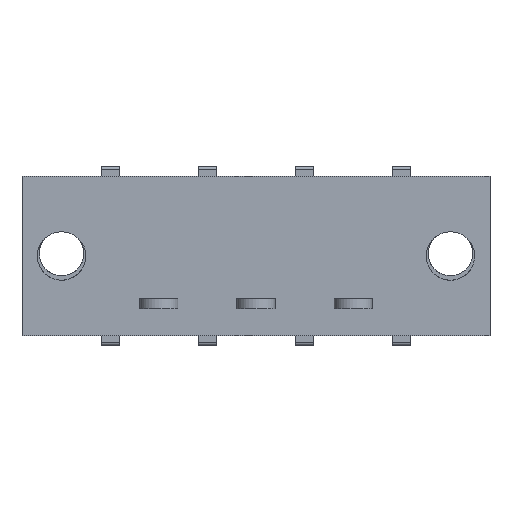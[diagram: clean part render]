
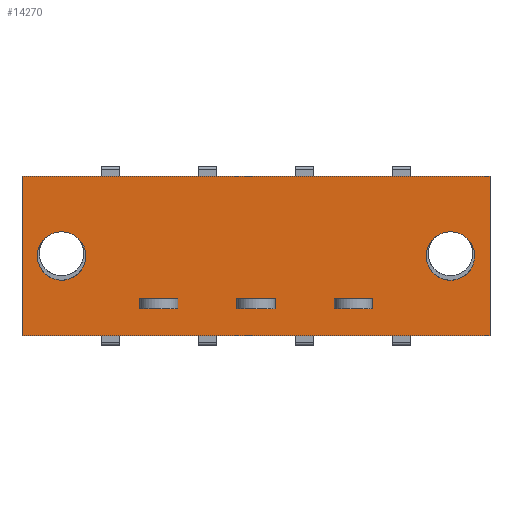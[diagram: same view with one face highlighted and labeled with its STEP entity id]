
A CAD part, front view. The second image highlights one B-rep face of the part: STEP entity #14270.
In plain terms, the highlighted planar face has unit normal (0, -1, 0).
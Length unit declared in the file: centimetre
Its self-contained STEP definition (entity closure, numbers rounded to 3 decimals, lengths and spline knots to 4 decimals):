
#752=PLANE('',#23408);
#1497=VECTOR('',#15420,1.);
#1705=VECTOR('',#15875,1.);
#1709=VECTOR('',#15880,1.);
#1712=VECTOR('',#15903,1.);
#1715=VECTOR('',#15907,1.);
#1764=VECTOR('',#16002,1.);
#1773=VECTOR('',#16014,1.);
#1774=VECTOR('',#16015,1.);
#1775=VECTOR('',#16016,1.);
#1776=VECTOR('',#16017,1.);
#1777=VECTOR('',#16018,1.);
#1778=VECTOR('',#16019,1.);
#1779=VECTOR('',#16020,1.);
#1780=VECTOR('',#16021,1.);
#1781=VECTOR('',#16022,1.);
#1782=VECTOR('',#16023,1.);
#3077=LINE('',#19181,#1497);
#3285=LINE('',#19869,#1705);
#3289=LINE('',#19878,#1709);
#3292=LINE('',#19899,#1712);
#3295=LINE('',#19904,#1715);
#3344=LINE('',#20025,#1764);
#3353=LINE('',#20044,#1773);
#3354=LINE('',#20047,#1774);
#3355=LINE('',#20049,#1775);
#3356=LINE('',#20051,#1776);
#3357=LINE('',#20052,#1777);
#3358=LINE('',#20055,#1778);
#3359=LINE('',#20057,#1779);
#3360=LINE('',#20059,#1780);
#3361=LINE('',#20060,#1781);
#3362=LINE('',#20062,#1782);
#4590=VERTEX_POINT('',#19180);
#4591=VERTEX_POINT('',#19182);
#4592=VERTEX_POINT('',#19186);
#4797=VERTEX_POINT('',#19870);
#4798=VERTEX_POINT('',#19871);
#4801=VERTEX_POINT('',#19879);
#4808=VERTEX_POINT('',#19900);
#4851=VERTEX_POINT('',#20026);
#4858=VERTEX_POINT('',#20043);
#4859=VERTEX_POINT('',#20045);
#4860=VERTEX_POINT('',#20046);
#4861=VERTEX_POINT('',#20048);
#4862=VERTEX_POINT('',#20050);
#4863=VERTEX_POINT('',#20053);
#4864=VERTEX_POINT('',#20054);
#4865=VERTEX_POINT('',#20056);
#4866=VERTEX_POINT('',#20058);
#4867=VERTEX_POINT('',#20061);
#5634=CIRCLE('',#23204,0.19);
#5710=CIRCLE('',#23409,0.19);
#6386=EDGE_CURVE('',#4591,#4590,#3077,.T.);
#6388=EDGE_CURVE('',#4592,#4592,#5634,.T.);
#6689=EDGE_CURVE('',#4797,#4798,#3285,.T.);
#6693=EDGE_CURVE('',#4801,#4797,#3289,.T.);
#6702=EDGE_CURVE('',#4798,#4808,#3292,.T.);
#6705=EDGE_CURVE('',#4808,#4801,#3295,.T.);
#6765=EDGE_CURVE('',#4851,#4590,#3344,.T.);
#6774=EDGE_CURVE('',#4858,#4858,#5710,.T.);
#6775=EDGE_CURVE('',#4859,#4860,#3353,.T.);
#6776=EDGE_CURVE('',#4860,#4861,#3354,.T.);
#6777=EDGE_CURVE('',#4861,#4862,#3355,.T.);
#6778=EDGE_CURVE('',#4862,#4859,#3356,.T.);
#6779=EDGE_CURVE('',#4863,#4864,#3357,.T.);
#6780=EDGE_CURVE('',#4864,#4865,#3358,.T.);
#6781=EDGE_CURVE('',#4865,#4866,#3359,.T.);
#6782=EDGE_CURVE('',#4866,#4863,#3360,.T.);
#6783=EDGE_CURVE('',#4867,#4591,#3361,.T.);
#6784=EDGE_CURVE('',#4867,#4851,#3362,.T.);
#9736=ORIENTED_EDGE('',*,*,#6388,.T.);
#9737=ORIENTED_EDGE('',*,*,#6774,.T.);
#9738=ORIENTED_EDGE('',*,*,#6693,.F.);
#9739=ORIENTED_EDGE('',*,*,#6705,.F.);
#9740=ORIENTED_EDGE('',*,*,#6702,.F.);
#9741=ORIENTED_EDGE('',*,*,#6689,.F.);
#9742=ORIENTED_EDGE('',*,*,#6775,.T.);
#9743=ORIENTED_EDGE('',*,*,#6776,.T.);
#9744=ORIENTED_EDGE('',*,*,#6777,.T.);
#9745=ORIENTED_EDGE('',*,*,#6778,.T.);
#9746=ORIENTED_EDGE('',*,*,#6779,.T.);
#9747=ORIENTED_EDGE('',*,*,#6780,.T.);
#9748=ORIENTED_EDGE('',*,*,#6781,.T.);
#9749=ORIENTED_EDGE('',*,*,#6782,.T.);
#9750=ORIENTED_EDGE('',*,*,#6783,.T.);
#9751=ORIENTED_EDGE('',*,*,#6386,.T.);
#9752=ORIENTED_EDGE('',*,*,#6765,.F.);
#9753=ORIENTED_EDGE('',*,*,#6784,.F.);
#12549=EDGE_LOOP('',(#9736));
#12550=EDGE_LOOP('',(#9737));
#12551=EDGE_LOOP('',(#9738,#9739,#9740,#9741));
#12552=EDGE_LOOP('',(#9742,#9743,#9744,#9745));
#12553=EDGE_LOOP('',(#9746,#9747,#9748,#9749));
#12554=EDGE_LOOP('',(#9750,#9751,#9752,#9753));
#13429=FACE_BOUND('',#12549,.T.);
#13430=FACE_BOUND('',#12550,.T.);
#13431=FACE_BOUND('',#12551,.T.);
#13432=FACE_BOUND('',#12552,.T.);
#13433=FACE_BOUND('',#12553,.T.);
#13434=FACE_BOUND('',#12554,.T.);
#14270=ADVANCED_FACE('',(#13429,#13430,#13431,#13432,#13433,#13434),#752,
 .T.);
#15420=DIRECTION('',(0.,0.,1.));
#15424=DIRECTION('',(0.,1.,0.));
#15425=DIRECTION('',(0.19,0.,0.));
#15875=DIRECTION('',(0.,0.,-1.));
#15880=DIRECTION('',(-1.,0.,0.));
#15903=DIRECTION('',(1.,0.,0.));
#15907=DIRECTION('',(0.,0.,1.));
#16002=DIRECTION('',(1.,0.,0.));
#16011=DIRECTION('',(0.,-1.,0.));
#16012=DIRECTION('',(0.,1.,0.));
#16013=DIRECTION('',(0.19,0.,0.));
#16014=DIRECTION('',(1.,0.,0.));
#16015=DIRECTION('',(0.,0.,-1.));
#16016=DIRECTION('',(-1.,0.,0.));
#16017=DIRECTION('',(0.,0.,1.));
#16018=DIRECTION('',(1.,0.,0.));
#16019=DIRECTION('',(0.,0.,-1.));
#16020=DIRECTION('',(-1.,0.,0.));
#16021=DIRECTION('',(0.,0.,1.));
#16022=DIRECTION('',(1.,0.,0.));
#16023=DIRECTION('',(0.,0.,1.));
#19180=CARTESIAN_POINT('',(2.286,0.,0.625));
#19181=CARTESIAN_POINT('',(2.286,0.,-0.625));
#19182=CARTESIAN_POINT('',(2.286,0.,-0.625));
#19185=CARTESIAN_POINT('',(1.976,0.,0.));
#19186=CARTESIAN_POINT('',(1.786,0.,0.));
#19869=CARTESIAN_POINT('',(-0.46,0.,-0.1875));
#19870=CARTESIAN_POINT('',(-0.46,0.,-0.335));
#19871=CARTESIAN_POINT('',(-0.46,0.,-0.415));
#19878=CARTESIAN_POINT('',(-0.465,0.,-0.335));
#19879=CARTESIAN_POINT('',(-0.16,0.,-0.335));
#19899=CARTESIAN_POINT('',(-0.465,0.,-0.415));
#19900=CARTESIAN_POINT('',(-0.16,0.,-0.415));
#19904=CARTESIAN_POINT('',(-0.16,0.,-0.1875));
#20025=CARTESIAN_POINT('',(-1.382,0.,0.625));
#20026=CARTESIAN_POINT('',(-1.382,0.,0.625));
#20041=CARTESIAN_POINT('',(0.,0.,0.));
#20042=CARTESIAN_POINT('',(-1.072,0.,0.));
#20043=CARTESIAN_POINT('',(-1.262,0.,0.));
#20044=CARTESIAN_POINT('',(0.607,0.,-0.335));
#20045=CARTESIAN_POINT('',(1.064,0.,-0.335));
#20046=CARTESIAN_POINT('',(1.364,0.,-0.335));
#20047=CARTESIAN_POINT('',(1.364,0.,-0.1875));
#20048=CARTESIAN_POINT('',(1.364,0.,-0.415));
#20049=CARTESIAN_POINT('',(0.607,0.,-0.415));
#20050=CARTESIAN_POINT('',(1.064,0.,-0.415));
#20051=CARTESIAN_POINT('',(1.064,0.,-0.1875));
#20052=CARTESIAN_POINT('',(0.226,0.,-0.335));
#20053=CARTESIAN_POINT('',(0.302,0.,-0.335));
#20054=CARTESIAN_POINT('',(0.602,0.,-0.335));
#20055=CARTESIAN_POINT('',(0.602,0.,-0.1875));
#20056=CARTESIAN_POINT('',(0.602,0.,-0.415));
#20057=CARTESIAN_POINT('',(0.226,0.,-0.415));
#20058=CARTESIAN_POINT('',(0.302,0.,-0.415));
#20059=CARTESIAN_POINT('',(0.302,0.,-0.1875));
#20060=CARTESIAN_POINT('',(-1.382,0.,-0.625));
#20061=CARTESIAN_POINT('',(-1.382,0.,-0.625));
#20062=CARTESIAN_POINT('',(-1.382,0.,-0.625));
#23204=AXIS2_PLACEMENT_3D('',#19185,#15424,#15425);
#23408=AXIS2_PLACEMENT_3D('',#20041,#16011,$);
#23409=AXIS2_PLACEMENT_3D('',#20042,#16012,#16013);
